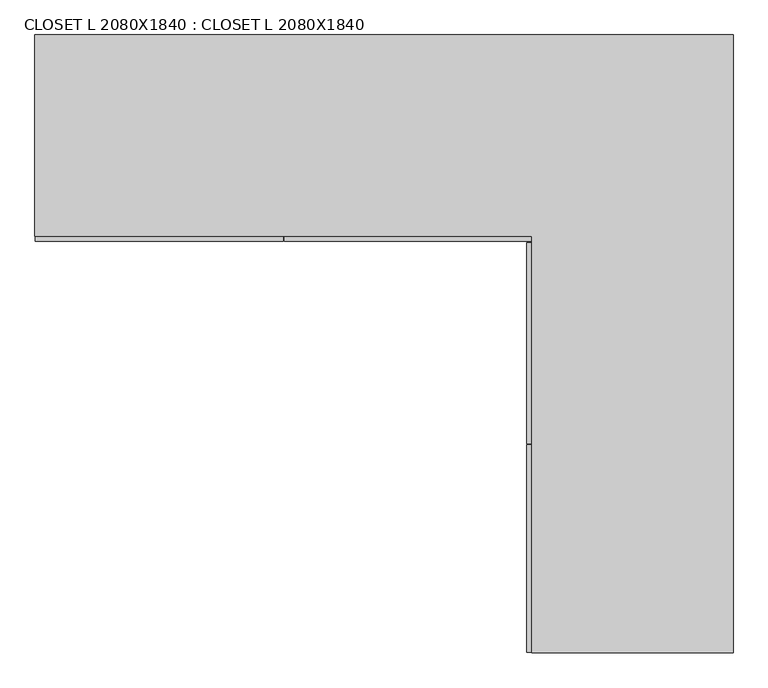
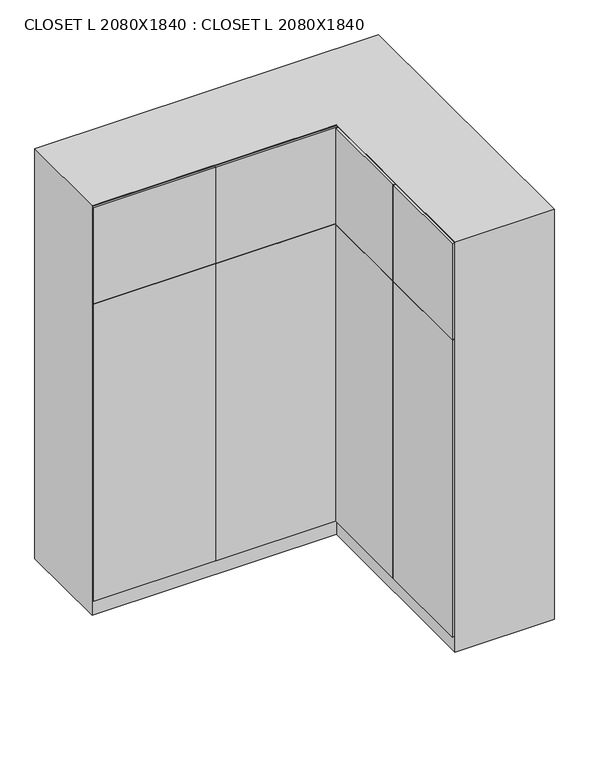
"""IFC4 building model written with IfcOpenShell, lengths in millimetres: furniture geometry, CLOSET L 2080X1840 : CLOSET L 2080X1840."""

from ifc_helpers import new_model, si_unit, frame, origin, origin_with_axes, place, context, project, spatial, polyline, outline, extrude, source, transform, mapped, element, save


def closet_l_2080x1840_closet_l_2080x1840_3d079f21(model_context):
    return source(origin(), model_context, "Body", "SweptSolid", [
        extrude(outline(polyline([(1344.7003264, 0.0), (1344.7003264, -1840.0), (744.7003264, -1840.0), (744.7003264, -600.0), (-735.2996736, -600.0), (-735.2996736, 0.0), (1344.7003264, 0.0)])), origin_with_axes(), (0.0, 0.0, 1.0), 2620.0),
        extrude(outline(polyline([(729.7003264, -1218.5), (729.7003264, -619.2687259), (744.7003264, -619.2687259), (744.7003264, -1218.5), (729.7003264, -1218.5)])), frame((0.0, 0.0, 100.0), z_axis=(0.0, 0.0, 1.0), x_axis=(1.0, 0.0, 0.0)), (0.0, 0.0, 1.0), 1898.5),
        extrude(outline(polyline([(729.7003264, -1838.5), (729.7003264, -1221.5), (744.7003264, -1221.5), (744.7003264, -1838.5), (729.7003264, -1838.5)])), frame((0.0, 0.0, 100.0), z_axis=(0.0, 0.0, 1.0), x_axis=(1.0, 0.0, 0.0)), (0.0, 0.0, 1.0), 1898.5),
        extrude(outline(polyline([(743.2003264, -615.0), (6.9503264, -615.0), (6.9503264, -600.0), (743.2003264, -600.0), (743.2003264, -615.0)])), frame((0.0, 0.0, 100.0), z_axis=(0.0, 0.0, 1.0), x_axis=(1.0, 0.0, 0.0)), (0.0, 0.0, 1.0), 1898.5),
        extrude(outline(polyline([(3.9503264, -615.0), (-733.7996736, -615.0), (-733.7996736, -600.0), (3.9503264, -600.0), (3.9503264, -615.0)])), frame((0.0, 0.0, 100.0), z_axis=(0.0, 0.0, 1.0), x_axis=(1.0, 0.0, 0.0)), (0.0, 0.0, 1.0), 1898.5),
        extrude(outline(polyline([(729.7003264, -1218.5), (729.7003264, -619.2687259), (744.7003264, -619.2687259), (744.7003264, -1218.5), (729.7003264, -1218.5)])), frame((0.0, 0.0, 2001.5), z_axis=(0.0, 0.0, 1.0), x_axis=(1.0, 0.0, 0.0)), (0.0, 0.0, 1.0), 613.5),
        extrude(outline(polyline([(729.7003264, -1838.5), (729.7003264, -1221.5), (744.7003264, -1221.5), (744.7003264, -1838.5), (729.7003264, -1838.5)])), frame((0.0, 0.0, 2001.5), z_axis=(0.0, 0.0, 1.0), x_axis=(1.0, 0.0, 0.0)), (0.0, 0.0, 1.0), 613.5),
        extrude(outline(polyline([(3.9503264, -615.0), (-733.7996736, -615.0), (-733.7996736, -600.0), (3.9503264, -600.0), (3.9503264, -615.0)])), frame((0.0, 0.0, 2001.5), z_axis=(0.0, 0.0, 1.0), x_axis=(1.0, 0.0, 0.0)), (0.0, 0.0, 1.0), 613.5),
        extrude(outline(polyline([(743.2003264, -615.0), (6.9503264, -615.0), (6.9503264, -600.0), (743.2003264, -600.0), (743.2003264, -615.0)])), frame((0.0, 0.0, 2001.5), z_axis=(0.0, 0.0, 1.0), x_axis=(1.0, 0.0, 0.0)), (0.0, 0.0, 1.0), 613.5),
    ])


if __name__ == "__main__":
    model = new_model("IFC4")
    model_context = context("Model", 3, world=origin())
    ifc_project = project(units=[si_unit("LENGTHUNIT", "METRE", prefix="MILLI")], contexts=[model_context])
    site = spatial("IfcSite", under=ifc_project)
    building = spatial("IfcBuilding", under=site)
    placement = place(None, origin())
    closet_l_2080x1840_closet_l_2080x1840_shape = closet_l_2080x1840_closet_l_2080x1840_3d079f21(model_context)
    element("IfcFurniture", 1, ObjectType="CLOSET L 2080X1840 : CLOSET L 2080X1840", at=placement, inside=building, context=model_context, shape_type="MappedRepresentation", body=[
        mapped(closet_l_2080x1840_closet_l_2080x1840_shape, transform((0.0, 0.0, 0.0), x_axis=(1.0, 0.0, 0.0), y_axis=(0.0, 1.0, 0.0), z_axis=(0.0, 0.0, 1.0))),
    ])
    save(model, "model.ifc")
